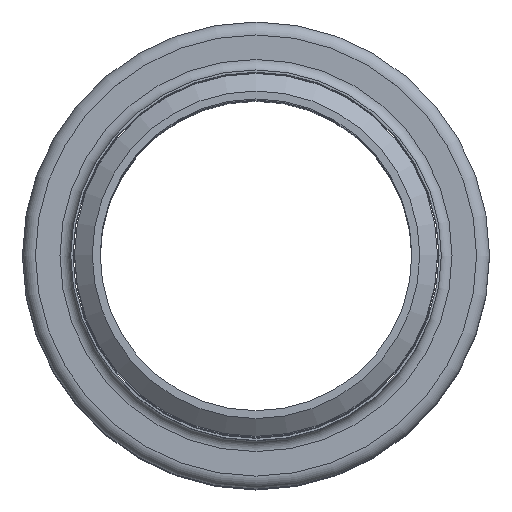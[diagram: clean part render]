
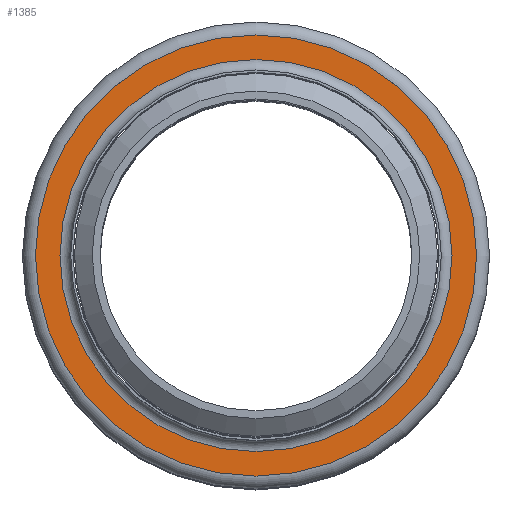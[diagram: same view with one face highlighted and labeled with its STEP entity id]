
A CAD part, top view. The second image highlights one B-rep face of the part: STEP entity #1385.
In plain terms, the highlighted planar face has unit normal (0, 0, 1).
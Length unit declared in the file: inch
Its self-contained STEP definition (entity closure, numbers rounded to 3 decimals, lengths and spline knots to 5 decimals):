
#155=FACE_BOUND('',#416,.T.);
#256=FACE_OUTER_BOUND('',#415,.T.);
#415=EDGE_LOOP('',(#1168));
#416=EDGE_LOOP('',(#1169));
#584=CIRCLE('',#1684,1.55275);
#585=CIRCLE('',#1686,1.74725);
#703=VERTEX_POINT('',#2631);
#704=VERTEX_POINT('',#2635);
#862=EDGE_CURVE('',#703,#703,#584,.T.);
#863=EDGE_CURVE('',#704,#704,#585,.T.);
#1168=ORIENTED_EDGE('',*,*,#863,.F.);
#1169=ORIENTED_EDGE('',*,*,#862,.T.);
#1284=PLANE('',#1685);
#1385=ADVANCED_FACE('',(#256,#155),#1284,.T.);
#1684=AXIS2_PLACEMENT_3D('',#2633,#2197,#2198);
#1685=AXIS2_PLACEMENT_3D('',#2634,#2199,#2200);
#1686=AXIS2_PLACEMENT_3D('',#2636,#2201,#2202);
#2197=DIRECTION('center_axis',(0.,0.,-1.));
#2198=DIRECTION('ref_axis',(1.,0.,0.));
#2199=DIRECTION('center_axis',(0.,0.,1.));
#2200=DIRECTION('ref_axis',(1.,0.,0.));
#2201=DIRECTION('center_axis',(0.,0.,-1.));
#2202=DIRECTION('ref_axis',(1.,0.,0.));
#2631=CARTESIAN_POINT('',(1.55275,0.,-0.08475));
#2633=CARTESIAN_POINT('Origin',(0.,0.,-0.08475));
#2634=CARTESIAN_POINT('Origin',(0.,1.74725,-0.08475));
#2635=CARTESIAN_POINT('',(1.74725,0.,-0.08475));
#2636=CARTESIAN_POINT('Origin',(0.,0.,-0.08475));
